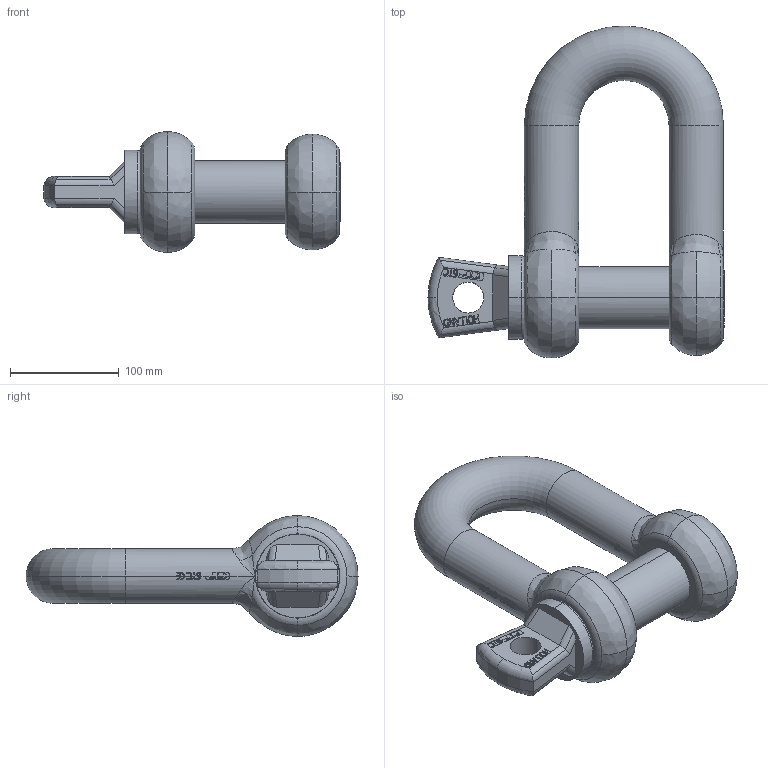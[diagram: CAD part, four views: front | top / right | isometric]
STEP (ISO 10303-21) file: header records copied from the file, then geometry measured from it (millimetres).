
FILE_DESCRIPTION(('STEP AP214'),'1');
FILE_NAME('gpgdbb50.stp','2017-06-30T08:57:28',('TraceParts'),('TraceParts S.A.'),'Spatial InterOp 3D',' ',' ');
FILE_SCHEMA(('automotive_design'));
Length unit declared in the file: millimetre
Products named in the file (2): gpgdbb50_1; gpgdbb50_2
Bounding box: 272 x 305 x 111 mm (x, y, z)
Volume: 2024098.4 mm3; surface area: 195628.8 mm2
Topology: 2 solids, 2 shells, 659 faces, 2073 edges, 1432 vertices
Faces by surface type: bspline 274, plane 233, cylinder 127, torus 22, cone 3
Entity records: 33642 total; most frequent: CARTESIAN_POINT 13279, ORIENTED_EDGE 4130, EDGE_CURVE 2065, DIRECTION 1588, VERTEX_POINT 1432, B_SPLINE_CURVE_WITH_KNOTS 1322, EDGE_LOOP 687, STYLED_ITEM 661
